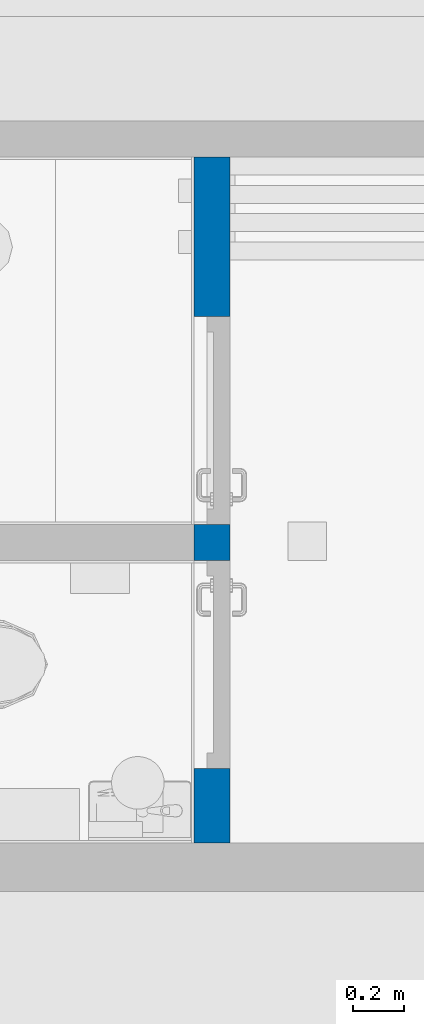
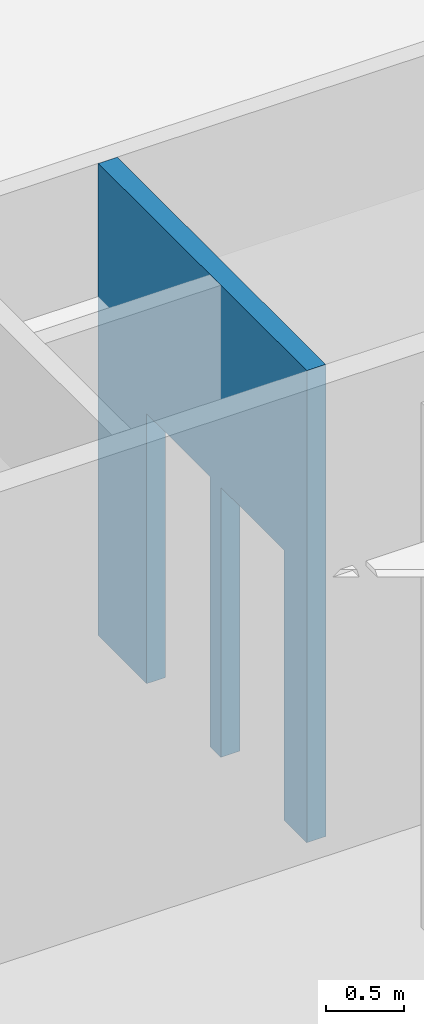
# One storey, part 97 of 301: 1 wall, 2 openings.
"""IFC2X3 building model written with IfcOpenShell, lengths in millimetres."""

from ifc_helpers import new_model, entity, si_unit, converted_unit, derived_unit, money_unit, direction, frame, origin_with_axes, place, context, subcontext, project, spatial, faceted_brep, material, type_object, element, save


model = new_model("IFC2X3")

# Units and contexts
model_context = context("Model", 3, precision=0.01, world=origin_with_axes(), true_north=direction((0.0, 1.0)))
body_context = subcontext(model_context, "Body", "Model", "MODEL_VIEW")
ifc_project = project(units=[si_unit("LENGTHUNIT", "METRE", prefix="MILLI"), si_unit("AREAUNIT", "SQUARE_METRE"), si_unit("VOLUMEUNIT", "CUBIC_METRE"), converted_unit("PLANEANGLEUNIT", "DEGREE", entity("IfcPlaneAngleMeasure", 0.0174532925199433), si_unit("PLANEANGLEUNIT", "RADIAN"), dimensions=[0, 0, 0, 0, 0, 0, 0]), money_unit("EUR"), converted_unit("TIMEUNIT", "Year", entity("IfcTimeMeasure", 31557600.0), si_unit("TIMEUNIT", "SECOND"), dimensions=[0, 0, 1, 0, 0, 0, 0]), si_unit("MASSUNIT", "GRAM", prefix="KILO"), si_unit("THERMODYNAMICTEMPERATUREUNIT", "DEGREE_CELSIUS"), si_unit("LUMINOUSINTENSITYUNIT", "LUMEN"), si_unit("ENERGYUNIT", "JOULE", prefix="MEGA"), derived_unit("THERMALCONDUCTANCEUNIT", [(si_unit("POWERUNIT", "WATT"), 1), (si_unit("LENGTHUNIT", "METRE"), -1), (si_unit("THERMODYNAMICTEMPERATUREUNIT", "KELVIN"), -1)]), derived_unit("SPECIFICHEATCAPACITYUNIT", [(si_unit("ENERGYUNIT", "JOULE"), 1), (si_unit("MASSUNIT", "GRAM", prefix="KILO"), -1), (si_unit("THERMODYNAMICTEMPERATUREUNIT", "KELVIN"), -1)]), derived_unit("MASSDENSITYUNIT", [(si_unit("MASSUNIT", "GRAM", prefix="KILO"), 1), (si_unit("VOLUMEUNIT", "CUBIC_METRE"), -1)])], contexts=[model_context])

# Site, building, storey
site_placement = place(None, frame((0.0, 0.0, 8650.0), z_axis=(0.0, 0.0, 1.0), x_axis=(1.0, 0.0, 0.0)))
site = spatial("IfcSite", under=ifc_project, at=site_placement, Name="43301:001:0844", CompositionType="ELEMENT")
building_placement = place(site_placement, origin_with_axes())
building = spatial("IfcBuilding", under=site, at=building_placement, Name="Kuressaare Ametikooli tuulikute mehaanikute õppekorpus", CompositionType="ELEMENT")
storey_placement = place(building_placement, origin_with_axes())
storey = spatial("IfcBuildingStorey", under=building, at=storey_placement, Name="1.korrus", CompositionType="ELEMENT", Elevation=0.0)

# Wall, openings
ifc_material = material(Name="Betoonõõnesplokk")
wall_type = type_object("IfcWallType", Name="SS-1.2 140", PredefinedType="NOTDEFINED")
wall_placement = place(storey_placement, frame((118205.2611408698, 17954.83657176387, 0.0), z_axis=(0.0, 0.0, 1.0), x_axis=(-2.63917371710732e-07, 0.9999999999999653, 0.0)))
wall = element("IfcWall", 1, at=wall_placement, inside=storey, type_object=wall_type, material=ifc_material, Name="Sisesein", context=body_context, shape_type="Brep", body=[
    faceted_brep([(1239.999644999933, -140.0000000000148, 0.0), (1239.999644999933, -140.0000000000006, 2110.0), (2049.999644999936, -140.0000000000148, 2110.0), (2049.999644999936, -140.0000000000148, 0.0), (2670.00085008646, -140.0000000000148, 0.0), (2670.00085008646, -140.0000000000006, 3690.0), (0.0, -140.0000000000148, 3690.0), (0.0, -140.0000000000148, 0.0), (290.0000033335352, -140.0000000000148, 0.0), (290.0000033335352, -140.000000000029, 2110.0), (1100.000003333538, -140.0000000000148, 2110.0), (1100.000003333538, -140.0000000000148, 0.0), (1239.99964499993, 0.0, 0.0), (1239.99964499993, 0.0, 2110.0), (2049.999644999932, 0.0, 2110.0), (2049.999644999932, 0.0, 0.0), (2670.000867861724, 0.0, 0.0), (2670.000867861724, 0.0, 3690.0), (0.0, 0.0, 3690.0), (0.0, 0.0, 0.0), (290.0000033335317, 0.0, 0.0), (290.0000033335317, 0.0, 2110.0), (1100.000003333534, 0.0, 2110.0), (1100.000003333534, 0.0, 0.0)], [[[0, 1, 2, 3, 4, 5, 6, 7, 8, 9, 10, 11]], [[1, 0, 12, 13]], [[2, 1, 13, 14]], [[3, 2, 14, 15]], [[3, 15, 16, 4]], [[5, 4, 16, 17]], [[5, 17, 18, 6]], [[18, 19, 7, 6]], [[8, 7, 19, 20]], [[8, 20, 21, 9]], [[9, 21, 22, 10]], [[10, 22, 23, 11]], [[12, 0, 11, 23]], [[13, 12, 23, 22, 21, 20, 19, 18, 17, 16, 15, 14]]]),
])
opening_1_placement = place(wall_placement, frame((695.0000033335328, 0.0, 0.0), z_axis=(0.0, 0.0, 1.0), x_axis=(1.0, 0.0, 0.0)))
element("IfcOpeningElement", 2, at=opening_1_placement, cuts=wall, Name="PU8", context=body_context, shape_type="Brep", body=[
    faceted_brep([(405.0000000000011, 1.000704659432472, 2110.0), (405.0000000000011, 1.000704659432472, 0.0), (-404.9999999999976, 1.000704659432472, 0.0), (-404.9999999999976, 1.000704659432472, 2110.0), (405.0000000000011, -141.0007046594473, 2110.0), (405.0000000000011, -141.0007046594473, 0.0), (-404.9999999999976, -141.0007046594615, 0.0), (-404.9999999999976, -141.0007046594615, 2110.0)], [[[0, 1, 2, 3]], [[4, 5, 1, 0]], [[5, 6, 2, 1]], [[6, 7, 3, 2]], [[7, 4, 0, 3]], [[6, 5, 4, 7]]]),
])
opening_2_placement = place(wall_placement, frame((1644.999644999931, 0.0, 0.0), z_axis=(0.0, 0.0, 1.0), x_axis=(1.0, 0.0, 0.0)))
element("IfcOpeningElement", 3, at=opening_2_placement, cuts=wall, Name="NU8", context=body_context, shape_type="Brep", body=[
    faceted_brep([(405.0000000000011, 1.000704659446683, 2110.0), (405.0000000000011, 1.000704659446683, 0.0), (-405.0000000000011, 1.000704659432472, 0.0), (-405.0000000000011, 1.000704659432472, 2110.0), (405.0000000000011, -141.0007046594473, 2110.0), (405.0000000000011, -141.0007046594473, 0.0), (-405.0000000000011, -141.0007046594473, 0.0), (-405.0000000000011, -141.0007046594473, 2110.0)], [[[0, 1, 2, 3]], [[4, 5, 1, 0]], [[5, 6, 2, 1]], [[6, 7, 3, 2]], [[7, 4, 0, 3]], [[6, 5, 4, 7]]]),
])

save(model, "model.ifc")
